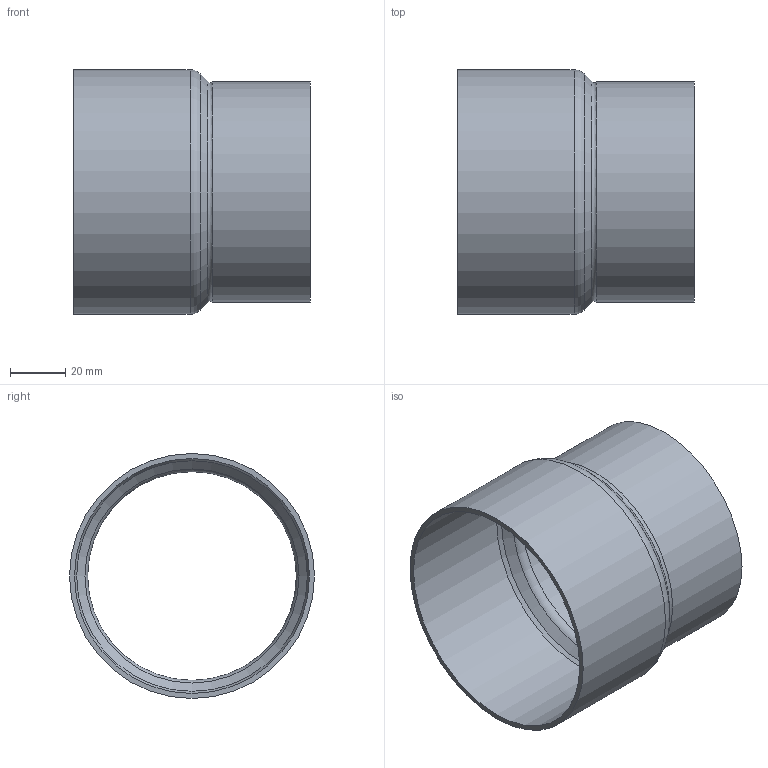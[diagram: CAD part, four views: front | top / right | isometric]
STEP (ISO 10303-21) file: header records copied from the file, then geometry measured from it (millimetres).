
FILE_DESCRIPTION((''),'2;1');
FILE_NAME('G:\Technik\Management\Bouwmaten + markeringen\z-maattekeningen 3D\5000\5243\52438976.stp','2015-03-16T15:44:54',('vdvijverd'),(''),'Autodesk Inventor 2009','Autodesk Inventor 2009','');
FILE_SCHEMA(('AUTOMOTIVE_DESIGN { 1 0 10303 214 1 1 1 1 }'));
Length unit declared in the file: millimetre
Products named in the file (1): 52438976
Bounding box: 86 x 88.9 x 88.9 mm (x, y, z)
Volume: 41241.5 mm3; surface area: 46662 mm2
Topology: 1 solids, 1 shells, 12 faces, 22 edges, 12 vertices
Faces by surface type: cylinder 4, torus 2, cone 2, bspline 2, plane 2
Full cylindrical faces by diameter (mm): 76.3 x1, 79.9 x1, 85.3 x1, 88.9 x1
Entity records: 372 total; most frequent: CARTESIAN_POINT 143, DIRECTION 46, ORIENTED_EDGE 24, EDGE_LOOP 24, AXIS2_PLACEMENT_3D 23, VERTEX_POINT 12, CIRCLE 12, EDGE_CURVE 12
